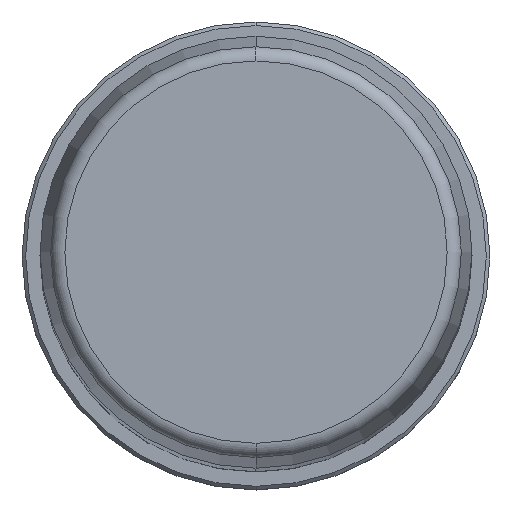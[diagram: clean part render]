
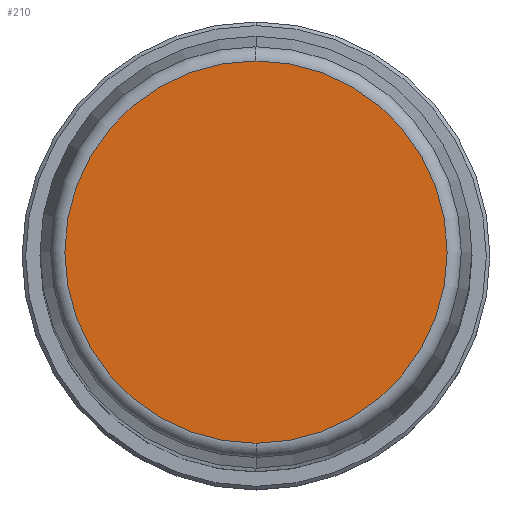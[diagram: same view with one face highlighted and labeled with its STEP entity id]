
A CAD part, top view. The second image highlights one B-rep face of the part: STEP entity #210.
In plain terms, the highlighted planar face has unit normal (0, 0, 1).
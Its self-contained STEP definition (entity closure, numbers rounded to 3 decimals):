
#1=CARTESIAN_POINT('',(0.,0.,315.));
#2=DIRECTION('',(0.,0.,-1.));
#3=DIRECTION('',(0.,-1.,0.));
#4=AXIS2_PLACEMENT_3D('',#1,#2,#3);
#6=CARTESIAN_POINT('',(0.,0.,315.));
#7=DIRECTION('',(0.,0.,-1.));
#8=DIRECTION('',(0.,1.,0.));
#9=AXIS2_PLACEMENT_3D('',#6,#7,#8);
#183=CARTESIAN_POINT('',(0.,-26.559,315.));
#184=CARTESIAN_POINT('',(0.,26.559,315.));
#185=VERTEX_POINT('',#183);
#186=VERTEX_POINT('',#184);
#199=CARTESIAN_POINT('',(0.,0.,315.));
#200=DIRECTION('',(0.,0.,1.));
#201=DIRECTION('',(0.,-1.,0.));
#202=AXIS2_PLACEMENT_3D('',#199,#200,#201);
#203=PLANE('',#202);
#205=ORIENTED_EDGE('',*,*,#204,.T.);
#207=ORIENTED_EDGE('',*,*,#206,.T.);
#208=EDGE_LOOP('',(#205,#207));
#209=FACE_OUTER_BOUND('',#208,.F.);
#210=ADVANCED_FACE('',(#209),#203,.T.);
#5=CIRCLE('',#4,26.559);
#10=CIRCLE('',#9,26.559);
#204=EDGE_CURVE('',#185,#186,#5,.T.);
#206=EDGE_CURVE('',#186,#185,#10,.T.);
